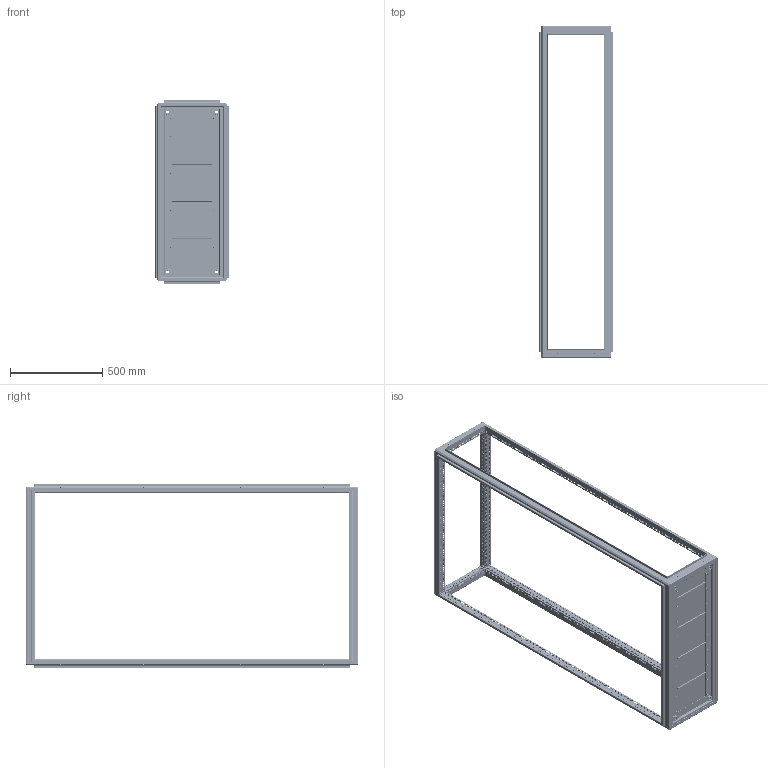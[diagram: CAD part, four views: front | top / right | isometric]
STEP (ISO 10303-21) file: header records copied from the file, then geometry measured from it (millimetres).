
FILE_DESCRIPTION(('STEP AP242'), '1');
FILE_NAME('ÊÑÊ.PRO.S.180.40.100 Êàðêàñ_ñåêöèîíèðîâàíèå', '', ('UNSPECIFIED'), ('UNSPECIFIED'), 'C3D Converter', 'C3D Toolkit', '');
FILE_SCHEMA(('AP242_MANAGED_MODEL_BASED_3D_ENGINEERING_MIM_LF { 1 0 10303 442 1 1 4 }'));
Length unit declared in the file: millimetre
Products named in the file (11): КСК.PRO.S.180.40.100; КСК.PRO.40.100; КСК.PRO.180; КСК.PRO.S.180; 2007.40.175; 2008.40.200; 2007.40.75
Assembly tree (29 placements, depth 2):
  КСК.PRO.S.180.40.100
    КСК.PRO.40.100
    КСК.PRO.180
    КСК.PRO.40.100
    КСК.PRO.180
    КСК.PRO.S.180
    КСК.PRO.S.180
    2007.40.175
    2008.40.200  x3
    2007.40.75
    (unnamed)  x18
Bounding box: 397 x 1797 x 997 mm (x, y, z)
Volume: 3341207.5 mm3; surface area: 4412676.4 mm2
Topology: 29 solids, 29 shells, 8955 faces, 25227 edges, 16521 vertices
Faces by surface type: plane 6301, cylinder 2088, cone 382, bspline 108, torus 44, sphere 32
Full cylindrical faces by diameter (mm): 3.242 x56, 4.134 x146, 4.5 x1330, 4.8 x18, 6 x56, 7 x146, 10.106 x4, 13.835 x4, 14 x4, 21.545 x4
Entity records: 299683 total; most frequent: CARTESIAN_POINT 48550, ORIENTED_EDGE 43606, DIRECTION 42456, EDGE_CURVE 21803, LINE 17598, VECTOR 17598, EDGE_LOOP 15972, VERTEX_POINT 15593
